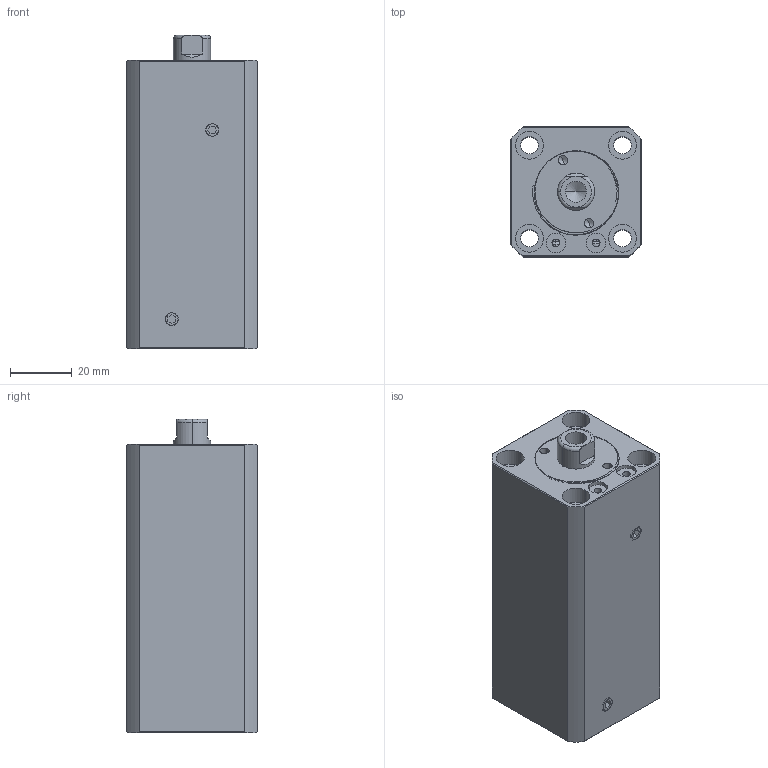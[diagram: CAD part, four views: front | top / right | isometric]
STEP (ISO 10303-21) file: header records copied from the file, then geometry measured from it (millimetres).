
FILE_DESCRIPTION (( 'STEP AP214' ), '1' );
FILE_NAME ('chtb-sdma20x50n_asm.STEP', '2018-05-18T06:03:13', ( '' ), ( '' ), 'SwSTEP 2.0', 'SolidWorks 2016', '' );
FILE_SCHEMA (( 'AUTOMOTIVE_DESIGN' ));
Length unit declared in the file: millimetre
Products named in the file (5): QG_3; CHTB-SDMA20X50NHSG; CHTB-SDMA20X50NBT; chtb-sdma20x50n_asm; socket set screw flat point_iso_ISO 4026 - M5 x 5-N
Assembly tree (5 placements, depth 2):
  chtb-sdma20x50n_asm
    CHTB-SDMA20X50NBT
    CHTB-SDMA20X50NHSG
    QG_3
    socket set screw flat point_iso_ISO 4026 - M5 x 5-N  x2
Bounding box: 42 x 42 x 101 mm (x, y, z)
Volume: 138503.3 mm3; surface area: 41703.1 mm2
Topology: 5 solids, 5 shells, 232 faces, 602 edges, 396 vertices
Faces by surface type: cylinder 111, plane 61, torus 25, bspline 21, cone 14
Entity records: 12042 total; most frequent: CARTESIAN_POINT 6742, ORIENTED_EDGE 1128, DIRECTION 1000, EDGE_CURVE 564, AXIS2_PLACEMENT_3D 415, VERTEX_POINT 376, EDGE_LOOP 256, ADVANCED_FACE 217
